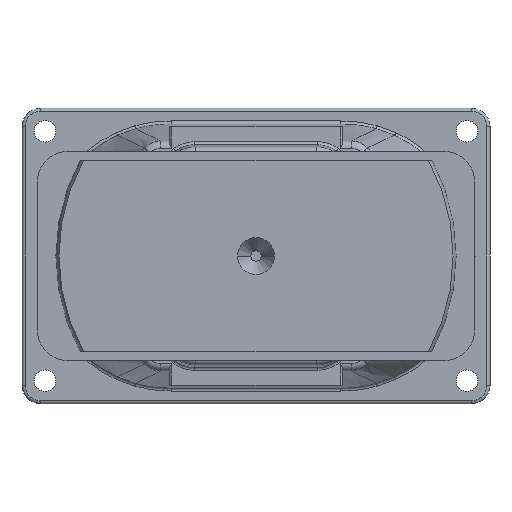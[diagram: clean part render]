
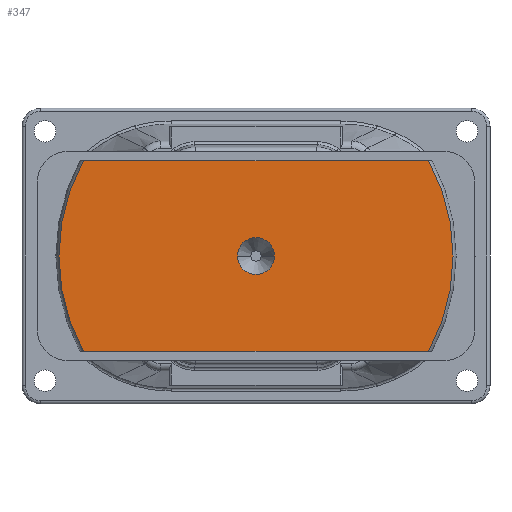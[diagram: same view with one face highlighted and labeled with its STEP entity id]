
A CAD part, front view. The second image highlights one B-rep face of the part: STEP entity #347.
In plain terms, the highlighted planar face has unit normal (0, -1, 0).
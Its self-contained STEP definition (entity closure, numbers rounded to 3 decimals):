
#55=CARTESIAN_POINT('',(0.,0.,0.));
#56=DIRECTION('',(0.,-1.,0.));
#57=DIRECTION('',(1.,0.,0.));
#58=AXIS2_PLACEMENT_3D('',#55,#56,#57);
#63=CARTESIAN_POINT('',(0.,0.,0.));
#64=DIRECTION('',(0.,1.,0.));
#65=DIRECTION('',(1.,0.,0.));
#66=AXIS2_PLACEMENT_3D('',#63,#64,#65);
#71=DIRECTION('',(-1.,0.,0.));
#72=VECTOR('',#71,55.991);
#73=CARTESIAN_POINT('',(27.996,0.,15.5));
#74=LINE('',#73,#72);
#78=DIRECTION('',(-1.,0.,0.));
#79=VECTOR('',#78,55.991);
#80=CARTESIAN_POINT('',(27.996,0.,-15.5));
#81=LINE('',#80,#79);
#108=CARTESIAN_POINT('',(0.,0.,0.));
#109=DIRECTION('',(0.,-1.,0.));
#110=DIRECTION('',(0.875,0.,-0.484));
#111=AXIS2_PLACEMENT_3D('',#108,#109,#110);
#131=CARTESIAN_POINT('',(0.,0.,0.));
#132=DIRECTION('',(0.,-1.,0.));
#133=DIRECTION('',(-0.875,0.,0.484));
#134=AXIS2_PLACEMENT_3D('',#131,#132,#133);
#238=CARTESIAN_POINT('',(3.,0.,0.));
#240=VERTEX_POINT('',#238);
#246=CARTESIAN_POINT('',(-3.,0.,0.));
#248=VERTEX_POINT('',#246);
#253=CARTESIAN_POINT('',(27.996,0.,15.5));
#254=CARTESIAN_POINT('',(-27.996,0.,15.5));
#255=VERTEX_POINT('',#253);
#256=VERTEX_POINT('',#254);
#257=CARTESIAN_POINT('',(27.996,0.,-15.5));
#258=CARTESIAN_POINT('',(-27.996,0.,-15.5));
#259=VERTEX_POINT('',#257);
#260=VERTEX_POINT('',#258);
#328=CARTESIAN_POINT('',(0.,0.,0.));
#329=DIRECTION('',(0.,-1.,0.));
#330=DIRECTION('',(-1.,0.,0.));
#331=AXIS2_PLACEMENT_3D('',#328,#329,#330);
#332=PLANE('',#331);
#334=ORIENTED_EDGE('',*,*,#333,.F.);
#336=ORIENTED_EDGE('',*,*,#335,.F.);
#338=ORIENTED_EDGE('',*,*,#337,.T.);
#340=ORIENTED_EDGE('',*,*,#339,.F.);
#341=EDGE_LOOP('',(#334,#336,#338,#340));
#342=FACE_OUTER_BOUND('',#341,.F.);
#343=ORIENTED_EDGE('',*,*,#316,.T.);
#344=ORIENTED_EDGE('',*,*,#293,.F.);
#345=EDGE_LOOP('',(#343,#344));
#346=FACE_BOUND('',#345,.F.);
#347=ADVANCED_FACE('',(#342,#346),#332,.T.);
#59=CIRCLE('',#58,3.);
#67=CIRCLE('',#66,3.);
#112=CIRCLE('',#111,32.);
#135=CIRCLE('',#134,32.);
#293=EDGE_CURVE('',#240,#248,#67,.T.);
#316=EDGE_CURVE('',#240,#248,#59,.T.);
#333=EDGE_CURVE('',#255,#256,#74,.T.);
#335=EDGE_CURVE('',#259,#255,#112,.T.);
#337=EDGE_CURVE('',#259,#260,#81,.T.);
#339=EDGE_CURVE('',#256,#260,#135,.T.);
